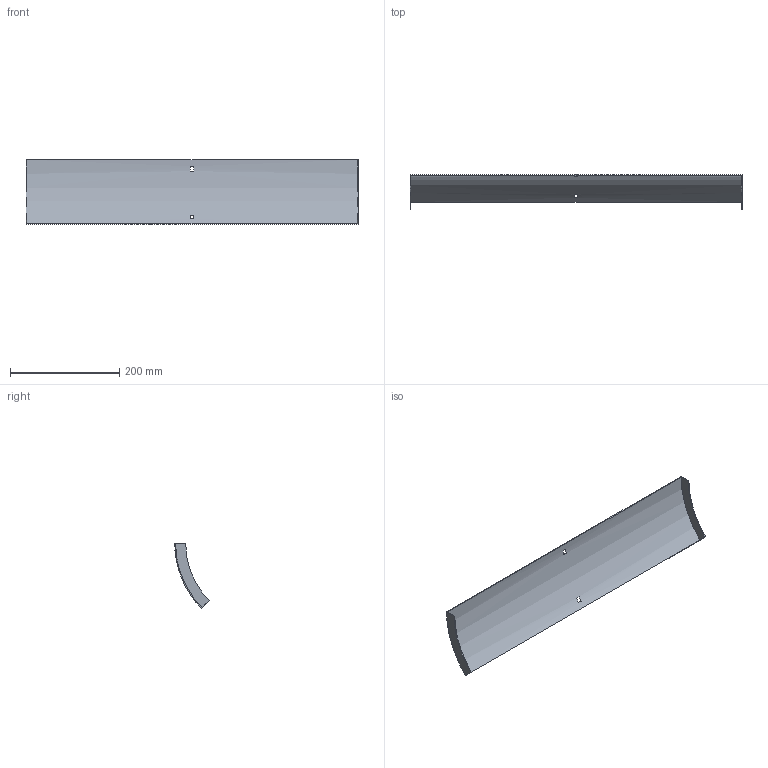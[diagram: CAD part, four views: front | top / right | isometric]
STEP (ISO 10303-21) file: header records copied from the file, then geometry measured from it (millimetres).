
FILE_DESCRIPTION (( 'STEP AP214' ), '1' );
FILE_NAME ('34N1H600.step', '2025-02-21T09:15:42', ( '' ), ( '' ), 'SwSTEP 2.0', 'SolidWorks 2023', '' );
FILE_SCHEMA (( 'AUTOMOTIVE_DESIGN' ));
Length unit declared in the file: millimetre
Products named in the file (1): 34N1H600
Bounding box: 607 x 63.06 x 118.09 mm (x, y, z)
Volume: 125520.7 mm3; surface area: 169734.5 mm2
Topology: 1 solids, 1 shells, 18 faces, 48 edges, 32 vertices
Faces by surface type: plane 14, cylinder 4
Entity records: 599 total; most frequent: DIRECTION 102, CARTESIAN_POINT 99, ORIENTED_EDGE 96, EDGE_CURVE 48, AXIS2_PLACEMENT_3D 35, VECTOR 32, VERTEX_POINT 32, LINE 32
